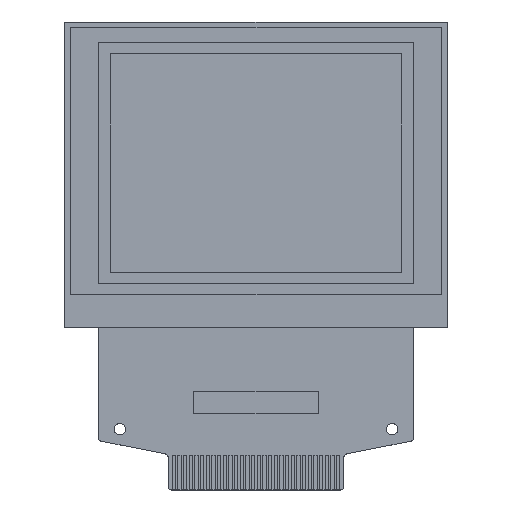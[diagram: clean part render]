
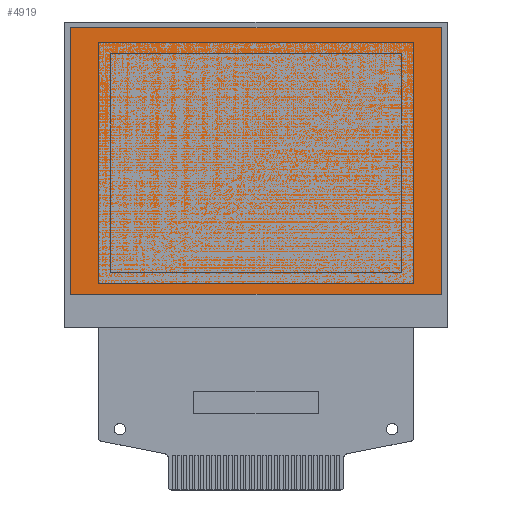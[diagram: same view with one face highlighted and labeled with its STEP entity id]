
A CAD part, top view. The second image highlights one B-rep face of the part: STEP entity #4919.
In plain terms, the highlighted planar face has unit normal (0, 0, 1).
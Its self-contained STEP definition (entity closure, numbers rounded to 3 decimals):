
#201 = CARTESIAN_POINT ( 'NONE',  ( 16.35, -10.55, 0.9 ) ) ;
#270 = VERTEX_POINT ( 'NONE', #4173 ) ;
#420 = EDGE_CURVE ( 'NONE', #5268, #2817, #5813, .T. ) ;
#476 = ORIENTED_EDGE ( 'NONE', *, *, #420, .T. ) ;
#546 = CARTESIAN_POINT ( 'NONE',  ( -16.35, -10.55, 0.9 ) ) ;
#610 = VERTEX_POINT ( 'NONE', #201 ) ;
#671 = DIRECTION ( 'NONE',  ( 1., 0., 0. ) ) ;
#1264 = VECTOR ( 'NONE', #4854, 1000. ) ;
#1560 = EDGE_LOOP ( 'NONE', ( #2644, #4456, #4450, #476 ) ) ;
#1754 = DIRECTION ( 'NONE',  ( 0., 1., 0. ) ) ;
#2010 = CARTESIAN_POINT ( 'NONE',  ( 0., 0., 0.9 ) ) ;
#2058 = EDGE_CURVE ( 'NONE', #2817, #270, #2598, .T. ) ;
#2125 = VECTOR ( 'NONE', #5078, 1000. ) ;
#2264 = DIRECTION ( 'NONE',  ( -1., 0., 0. ) ) ;
#2598 = LINE ( 'NONE', #4402, #1264 ) ;
#2644 = ORIENTED_EDGE ( 'NONE', *, *, #2058, .T. ) ;
#2817 = VERTEX_POINT ( 'NONE', #4872 ) ;
#3078 = CARTESIAN_POINT ( 'NONE',  ( 16.35, 12.95, 0.9 ) ) ;
#3090 = AXIS2_PLACEMENT_3D ( 'NONE', #2010, #3370, #671 ) ;
#3106 = EDGE_CURVE ( 'NONE', #270, #610, #3320, .T. ) ;
#3320 = LINE ( 'NONE', #546, #2125 ) ;
#3370 = DIRECTION ( 'NONE',  ( 0., 0., 1. ) ) ;
#3377 = VECTOR ( 'NONE', #1754, 1000. ) ;
#3399 = VECTOR ( 'NONE', #2264, 1000. ) ;
#4173 = CARTESIAN_POINT ( 'NONE',  ( -16.35, -10.55, 0.9 ) ) ;
#4402 = CARTESIAN_POINT ( 'NONE',  ( -16.35, 12.95, 0.9 ) ) ;
#4440 = CARTESIAN_POINT ( 'NONE',  ( -16.35, 12.95, 0.9 ) ) ;
#4450 = ORIENTED_EDGE ( 'NONE', *, *, #5082, .T. ) ;
#4456 = ORIENTED_EDGE ( 'NONE', *, *, #3106, .T. ) ;
#4600 = LINE ( 'NONE', #3078, #3377 ) ;
#4854 = DIRECTION ( 'NONE',  ( 0., -1., 0. ) ) ;
#4872 = CARTESIAN_POINT ( 'NONE',  ( -16.35, 12.95, 0.9 ) ) ;
#4919 = ADVANCED_FACE ( 'NONE', ( #5210 ), #5632, .T. ) ;
#5078 = DIRECTION ( 'NONE',  ( 1., 0., 0. ) ) ;
#5082 = EDGE_CURVE ( 'NONE', #610, #5268, #4600, .T. ) ;
#5210 = FACE_OUTER_BOUND ( 'NONE', #1560, .T. ) ;
#5268 = VERTEX_POINT ( 'NONE', #5463 ) ;
#5463 = CARTESIAN_POINT ( 'NONE',  ( 16.35, 12.95, 0.9 ) ) ;
#5632 = PLANE ( 'NONE',  #3090 ) ;
#5813 = LINE ( 'NONE', #4440, #3399 ) ;
